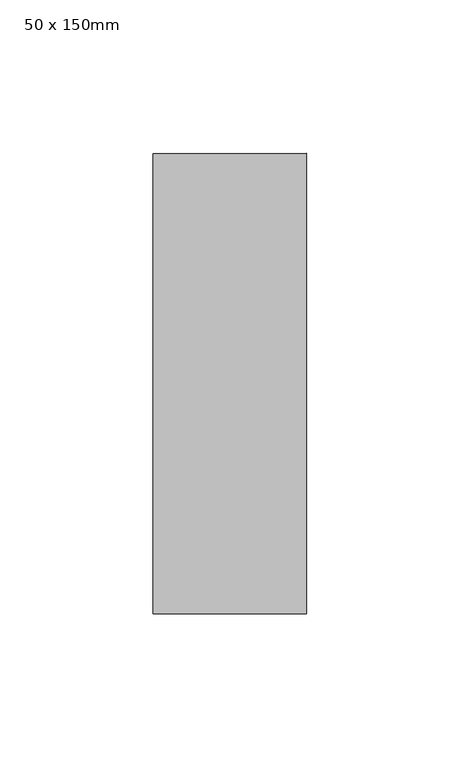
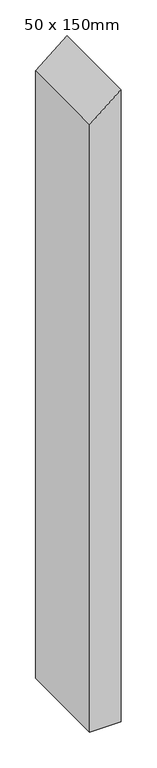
"""IFC4 building model written with IfcOpenShell, lengths in millimetres: member geometry, 矩形豎框 : 50 x 150mm."""

from ifc_helpers import new_model, si_unit, frame, origin, place, context, project, spatial, polyline, outline, extrude, source, transform, mapped, element, save


def member_50_x_150mm_83b75eaf(model_context):
    return source(origin(), model_context, "Body", "SweptSolid", [
        extrude(outline(polyline([(0.0, 0.0), (-41.9549816, -50.0), (-1072.9674532, -50.0), (-1072.9674532, 0.0), (0.0, 0.0)])), frame((0.0, -75.0, 0.0), z_axis=(0.0, 1.0, 0.0), x_axis=(0.0, 0.0, 1.0)), (0.0, 0.0, 1.0), 150.0),
    ])


if __name__ == "__main__":
    model = new_model("IFC4")
    model_context = context("Model", 3, world=origin())
    ifc_project = project(units=[si_unit("LENGTHUNIT", "METRE", prefix="MILLI")], contexts=[model_context])
    site = spatial("IfcSite", under=ifc_project)
    building = spatial("IfcBuilding", under=site)
    placement = place(None, origin())
    member_50_x_150mm_shape = member_50_x_150mm_83b75eaf(model_context)
    element("IfcMember", 1, ObjectType="矩形豎框 : 50 x 150mm", at=placement, inside=building, context=model_context, shape_type="MappedRepresentation", body=[
        mapped(member_50_x_150mm_shape, transform((0.0, 0.0, 0.0), x_axis=(1.0, 0.0, 0.0), y_axis=(0.0, 1.0, 0.0), z_axis=(0.0, 0.0, 1.0))),
    ])
    save(model, "model.ifc")
